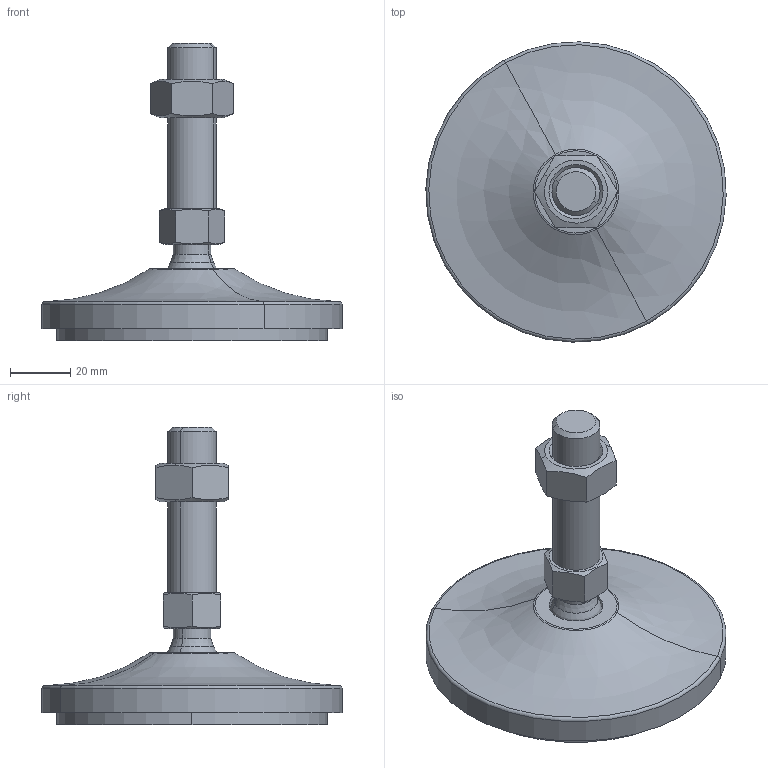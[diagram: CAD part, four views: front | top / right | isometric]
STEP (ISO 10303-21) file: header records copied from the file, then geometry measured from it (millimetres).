
FILE_DESCRIPTION(('CATIA V5 STEP Exchange'),'2;1');
FILE_NAME('C:\Users\ALI OZGUN\Desktop\alhan\saplama2\560101610AV.stp','2017-09-21T10:30:58+00:00',('none'),('none'),'CATIA Version 5 Release 21 GA (IN-10)','CATIA V5 STEP AP203','none');
FILE_SCHEMA(('CONFIG_CONTROL_DESIGN'));
Length unit declared in the file: millimetre
Products named in the file (1): 560101610AV
Bounding box: 99.97 x 99.97 x 99 mm (x, y, z)
Volume: 140038.9 mm3; surface area: 42884.7 mm2
Topology: 4 solids, 4 shells, 64 faces, 142 edges, 87 vertices
Faces by surface type: plane 22, cylinder 16, cone 16, torus 4, revolution 4, sphere 2
Entity records: 1936 total; most frequent: CARTESIAN_POINT 628, ORIENTED_EDGE 280, DIRECTION 197, EDGE_CURVE 140, AXIS2_PLACEMENT_3D 106, VERTEX_POINT 87, EDGE_LOOP 71, ADVANCED_FACE 64
